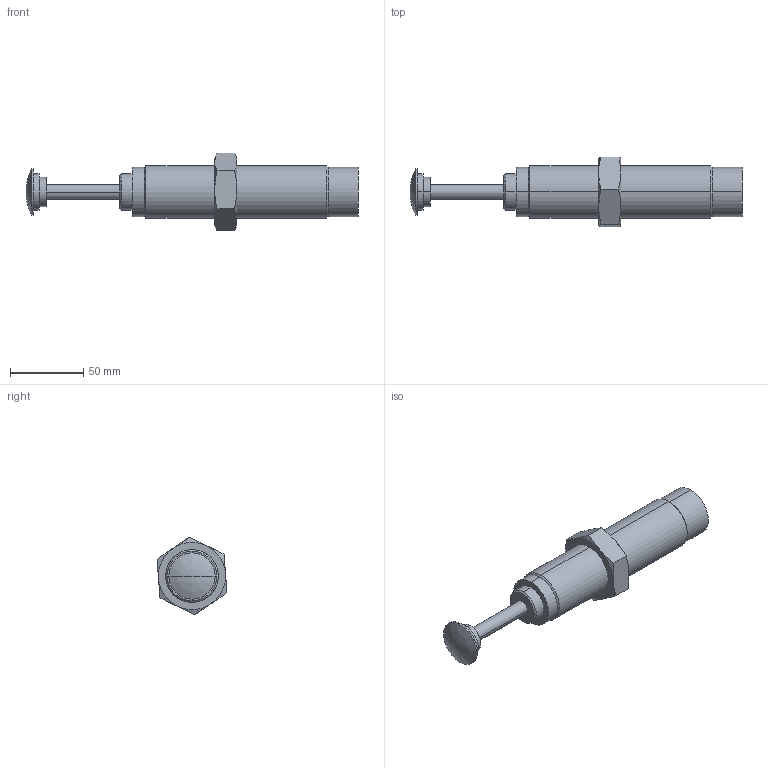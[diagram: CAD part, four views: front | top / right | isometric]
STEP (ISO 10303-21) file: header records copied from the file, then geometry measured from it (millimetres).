
FILE_DESCRIPTION (( 'STEP AP203' ), '1' );
FILE_NAME ('FSA-3650CD.STEP', '2016-03-17T07:50:14', ( 'Sam Lin' ), ( '' ), 'SwSTEP 2.0', 'SolidWorks 2013', '' );
FILE_SCHEMA (( 'CONFIG_CONTROL_DESIGN' ));
Length unit declared in the file: metre
Products named in the file (3): M36x1.5-15mm_1; FSA-3650CD; FSA-3650CD_1
Assembly tree (2 placements, depth 2):
  FSA-3650CD
    FSA-3650CD_1
    M36x1.5-15mm_1
Bounding box: 227 x 47.81 x 52.98 mm (x, y, z)
Volume: 180106.7 mm3; surface area: 29177.4 mm2
Topology: 2 solids, 2 shells, 52 faces, 116 edges, 71 vertices
Faces by surface type: cylinder 18, bspline 14, plane 14, cone 6
Entity records: 2093 total; most frequent: CARTESIAN_POINT 740, ORIENTED_EDGE 228, DIRECTION 212, EDGE_CURVE 114, AXIS2_PLACEMENT_3D 91, VERTEX_POINT 71, EDGE_LOOP 59, ADVANCED_FACE 52
